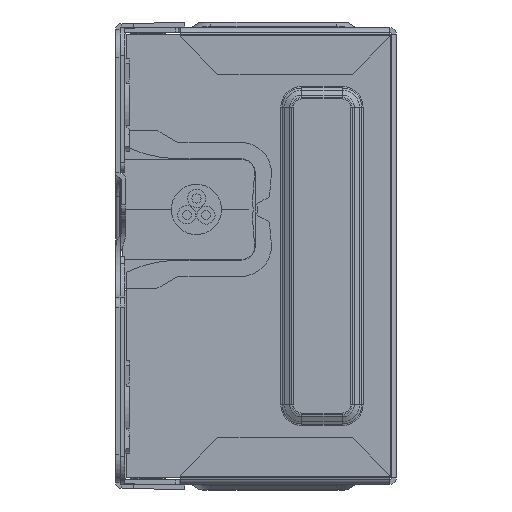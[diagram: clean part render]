
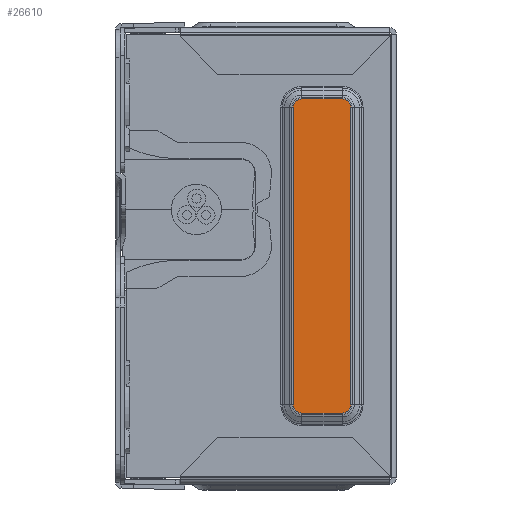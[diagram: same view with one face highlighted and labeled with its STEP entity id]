
A CAD part, left-side view. The second image highlights one B-rep face of the part: STEP entity #26610.
In plain terms, the highlighted planar face has unit normal (-1, 0, 0).
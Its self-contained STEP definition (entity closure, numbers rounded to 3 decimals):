
#188 = AXIS2_PLACEMENT_3D ( 'NONE', #10860, #10861, #10862 ) ;
#189 = AXIS2_PLACEMENT_3D ( 'NONE', #10865, #10866, #10867 ) ;
#190 = AXIS2_PLACEMENT_3D ( 'NONE', #10868, #10869, #10870 ) ;
#191 = AXIS2_PLACEMENT_3D ( 'NONE', #10871, #10872, #10873 ) ;
#4130 = ORIENTED_EDGE ( 'NONE', *, *, #37727, .T. ) ;
#4131 = ORIENTED_EDGE ( 'NONE', *, *, #37729, .T. ) ;
#4132 = ORIENTED_EDGE ( 'NONE', *, *, #37731, .T. ) ;
#4133 = ORIENTED_EDGE ( 'NONE', *, *, #37732, .T. ) ;
#4134 = ORIENTED_EDGE ( 'NONE', *, *, #37734, .T. ) ;
#4135 = ORIENTED_EDGE ( 'NONE', *, *, #37736, .T. ) ;
#4136 = ORIENTED_EDGE ( 'NONE', *, *, #37738, .T. ) ;
#4137 = ORIENTED_EDGE ( 'NONE', *, *, #37739, .T. ) ;
#7834 = VERTEX_POINT ( 'NONE', #30908 ) ;
#7835 = VERTEX_POINT ( 'NONE', #30909 ) ;
#7840 = VERTEX_POINT ( 'NONE', #30914 ) ;
#7841 = VERTEX_POINT ( 'NONE', #30915 ) ;
#7842 = VERTEX_POINT ( 'NONE', #30916 ) ;
#7843 = VERTEX_POINT ( 'NONE', #30917 ) ;
#7845 = VERTEX_POINT ( 'NONE', #30919 ) ;
#7846 = VERTEX_POINT ( 'NONE', #30920 ) ;
#10514 = CARTESIAN_POINT ( 'NONE',  ( -69., 8.01, 0. ) ) ;
#10515 = PLANE ( 'NONE',  #22874 ) ;
#10517 = DIRECTION ( 'NONE',  ( 1., 0., 0. ) ) ;
#10518 = DIRECTION ( 'NONE',  ( 0., 0., -1. ) ) ;
#10848 = DIRECTION ( 'NONE',  ( 0., -1., 0. ) ) ;
#10855 = CARTESIAN_POINT ( 'NONE',  ( -69., 11.09, 0. ) ) ;
#10856 = CARTESIAN_POINT ( 'NONE',  ( -69., 8.01, -16.88 ) ) ;
#10857 = DIRECTION ( 'NONE',  ( 0., 0., -1. ) ) ;
#10858 = CARTESIAN_POINT ( 'NONE',  ( -69., 4.93, 0. ) ) ;
#10859 = DIRECTION ( 'NONE',  ( 0., 0., 1. ) ) ;
#10860 = CARTESIAN_POINT ( 'NONE',  ( -69., 10.21, -16. ) ) ;
#10861 = DIRECTION ( 'NONE',  ( -1., 0., 0. ) ) ;
#10862 = DIRECTION ( 'NONE',  ( 0., 1., 0. ) ) ;
#10863 = CARTESIAN_POINT ( 'NONE',  ( -69., 8.01, 16.88 ) ) ;
#10864 = DIRECTION ( 'NONE',  ( 0., 1., 0. ) ) ;
#10865 = CARTESIAN_POINT ( 'NONE',  ( -69., 5.81, -16. ) ) ;
#10866 = DIRECTION ( 'NONE',  ( -1., 0., 0. ) ) ;
#10867 = DIRECTION ( 'NONE',  ( 0., 1., 0. ) ) ;
#10868 = CARTESIAN_POINT ( 'NONE',  ( -69., 5.81, 16. ) ) ;
#10869 = DIRECTION ( 'NONE',  ( -1., 0., 0. ) ) ;
#10870 = DIRECTION ( 'NONE',  ( 0., 1., 0. ) ) ;
#10871 = CARTESIAN_POINT ( 'NONE',  ( -69., 10.21, 16. ) ) ;
#10872 = DIRECTION ( 'NONE',  ( -1., 0., 0. ) ) ;
#10873 = DIRECTION ( 'NONE',  ( 0., 1., 0. ) ) ;
#11197 = EDGE_LOOP ( 'NONE', ( #4130, #4131, #4132, #4133, #4134, #4135, #4136, #4137 ) ) ;
#22874 = AXIS2_PLACEMENT_3D ( 'NONE', #10514, #10517, #10518 ) ;
#26610 = ADVANCED_FACE ( 'NONE', ( #35983 ), #10515, .F. ) ;
#27742 = CIRCLE ( 'NONE', #188, 0.88 ) ;
#27748 = LINE ( 'NONE', #10855, #27751 ) ;
#27751 = VECTOR ( 'NONE', #10857, 1000. ) ;
#27752 = LINE ( 'NONE', #10856, #27754 ) ;
#27753 = CIRCLE ( 'NONE', #189, 0.88 ) ;
#27754 = VECTOR ( 'NONE', #10848, 1000. ) ;
#27755 = LINE ( 'NONE', #10858, #27757 ) ;
#27756 = CIRCLE ( 'NONE', #190, 0.88 ) ;
#27757 = VECTOR ( 'NONE', #10859, 1000. ) ;
#27758 = LINE ( 'NONE', #10863, #27760 ) ;
#27759 = CIRCLE ( 'NONE', #191, 0.88 ) ;
#27760 = VECTOR ( 'NONE', #10864, 1000. ) ;
#30908 = CARTESIAN_POINT ( 'NONE',  ( -69., 11.09, 16. ) ) ;
#30909 = CARTESIAN_POINT ( 'NONE',  ( -69., 11.09, -16. ) ) ;
#30914 = CARTESIAN_POINT ( 'NONE',  ( -69., 10.21, -16.88 ) ) ;
#30915 = CARTESIAN_POINT ( 'NONE',  ( -69., 5.81, -16.88 ) ) ;
#30916 = CARTESIAN_POINT ( 'NONE',  ( -69., 4.93, -16. ) ) ;
#30917 = CARTESIAN_POINT ( 'NONE',  ( -69., 4.93, 16. ) ) ;
#30919 = CARTESIAN_POINT ( 'NONE',  ( -69., 5.81, 16.88 ) ) ;
#30920 = CARTESIAN_POINT ( 'NONE',  ( -69., 10.21, 16.88 ) ) ;
#35983 = FACE_OUTER_BOUND ( 'NONE', #11197, .T. ) ;
#37727 = EDGE_CURVE ( 'NONE', #7834, #7835, #27748, .T. ) ;
#37729 = EDGE_CURVE ( 'NONE', #7835, #7840, #27742, .T. ) ;
#37731 = EDGE_CURVE ( 'NONE', #7840, #7841, #27752, .T. ) ;
#37732 = EDGE_CURVE ( 'NONE', #7841, #7842, #27753, .T. ) ;
#37734 = EDGE_CURVE ( 'NONE', #7842, #7843, #27755, .T. ) ;
#37736 = EDGE_CURVE ( 'NONE', #7843, #7845, #27756, .T. ) ;
#37738 = EDGE_CURVE ( 'NONE', #7845, #7846, #27758, .T. ) ;
#37739 = EDGE_CURVE ( 'NONE', #7846, #7834, #27759, .T. ) ;
